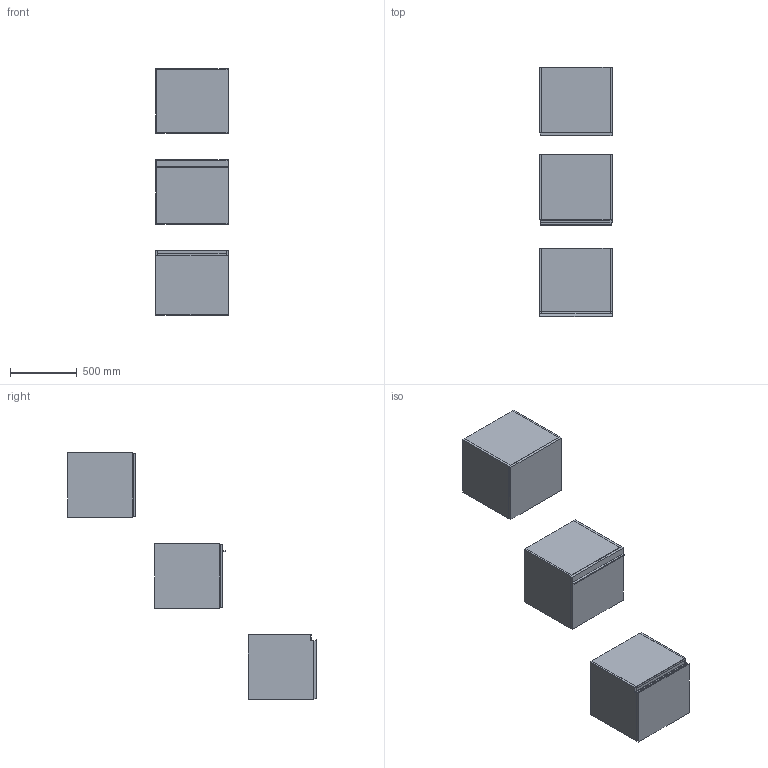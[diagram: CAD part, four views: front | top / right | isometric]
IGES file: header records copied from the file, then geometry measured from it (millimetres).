
Start section: Data from Parasolid IGES Translator 19.0.9, Copyright(c) 2006 Siemens PL M Software. All Rights Reserved.
Global section: file name: noorth-SI-H 48 D 51 W 54_8565.igs; native system: By Siemens PLM Incorporated; preprocessor: XPlus GENERIC/IGES 19.0.9; author: Noname; organization: Noname; date: 20200601.113240; units: metre
Bounding box: 540 x 1857.1 x 1840.01 mm (x, y, z)
Volume: 62398375.3 mm3; surface area: 9219318.6 mm2
Topology: 20 solids, 20 shells, 178 faces, 382 edges, 234 vertices
Faces by surface type: plane 134, extrusion 16, bspline 16, cylinder 12
